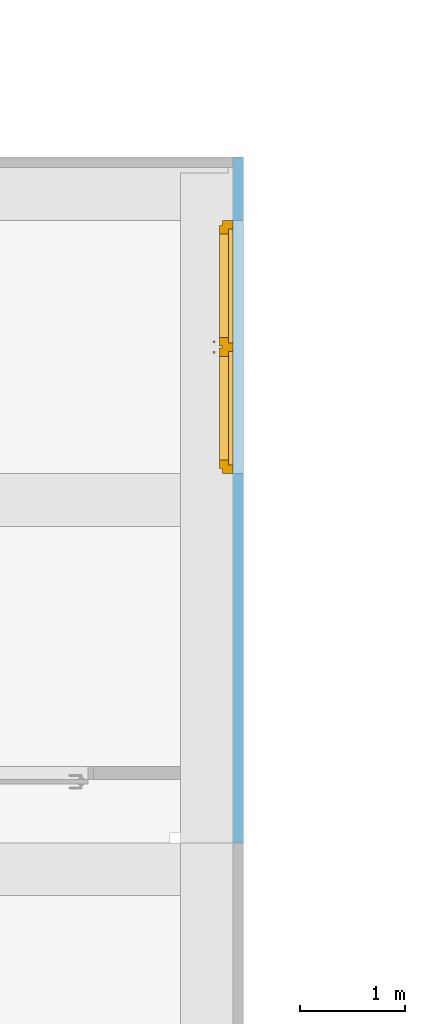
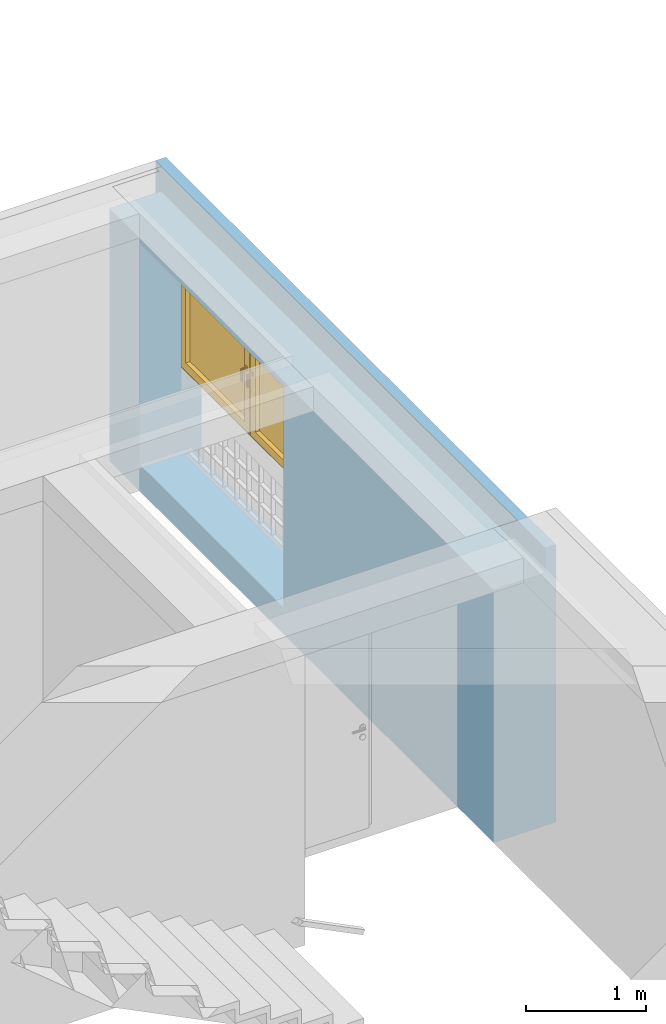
# One storey, part 15 of 27: 1 window, 2 openings, plus 1 element that does not belong to this part.
"""IFC4 building model written with IfcOpenShell, lengths in metres."""

from ifc_helpers import new_model, entity, si_unit, converted_unit, derived_unit, frame, origin, origin_with_axes, place, context, subcontext, project, spatial, polyline, outline, extrude, closed_shell, open_shell, faceted_brep, surface_model, source, transform, mapped, material, element, fill, save


model = new_model("IFC4")

# Units and contexts
model_context = context("Model", 3, precision=1e-05, world=origin())
body_context = subcontext(model_context, "Body", "Model", "MODEL_VIEW")
ifc_project = project(units=[si_unit("LENGTHUNIT", "METRE"), si_unit("AREAUNIT", "SQUARE_METRE"), si_unit("VOLUMEUNIT", "CUBIC_METRE"), si_unit("MASSUNIT", "GRAM", prefix="KILO"), converted_unit("PLANEANGLEUNIT", "DEGREE", entity("IfcPlaneAngleMeasure", 0.0174532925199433), si_unit("PLANEANGLEUNIT", "RADIAN"), dimensions=[0, 0, 0, 0, 0, 0, 0]), derived_unit("THERMALTRANSMITTANCEUNIT", [(si_unit("POWERUNIT", "WATT"), 1), (si_unit("THERMODYNAMICTEMPERATUREUNIT", "KELVIN"), -1), (si_unit("LENGTHUNIT", "METRE"), -2)]), derived_unit("VOLUMETRICFLOWRATEUNIT", [(si_unit("LENGTHUNIT", "METRE"), 3), (converted_unit("TIMEUNIT", "hour", entity("IfcTimeMeasure", 3600.0), si_unit("TIMEUNIT", "SECOND"), dimensions=[0, 0, 1, 0, 0, 0, 0]), -1), (si_unit("LENGTHUNIT", "METRE"), -1)])], contexts=[model_context])

# Site, building, storey
site_placement = place(None, origin())
site = spatial("IfcSite", under=ifc_project, at=site_placement, Name="3. ASŘ", CompositionType="ELEMENT")
building_placement = place(site_placement, origin())
building = spatial("IfcBuilding", under=site, at=building_placement, Name="Pavilon C", CompositionType="ELEMENT")
storey_placement = place(building_placement, frame((0.0, 0.0, 10.5)))
storey = spatial("IfcBuildingStorey", under=building, at=storey_placement, Name="Půdorys 4.NP", CompositionType="ELEMENT", Elevation=10.5)

# Wall, openings, window
ifc_material = material(Name="EPS")
wall_placement = place(storey_placement, frame((-1.52499999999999, 4.45, -0.42)))
wall = element("IfcWall", 1, at=wall_placement, inside=storey, material=ifc_material, Name="ZDIVO Z CDm", context=body_context, shape_type="Brep", body=[
    faceted_brep([(0.6, 5.90000000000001, 0.27), (0.6, 5.90000000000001, 0.12), (0.5, 5.90000000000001, 0.12), (0.5, 5.90000000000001, 0.27), (0.5, 3.50000000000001, 0.12), (0.6, 3.50000000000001, 0.12), (0.6, 6.5, 0.0), (0.6, 9.09494701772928e-16, 0.0), (0.6, 9.09494701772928e-16, 2.82), (0.6, 6.5, 2.82), (0.6, 3.50000000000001, 0.27), (0.5, 3.50000000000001, 0.27), (0.5, 6.4, 0.0), (0.0, 6.4, 0.0), (0.0, 9.09494701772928e-16, 0.0), (0.5, 6.5, 0.0), (0.5, 6.5, 2.82), (0.5, 9.09494701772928e-16, 2.82), (0.0, 9.09494701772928e-16, 2.57), (0.5, 9.09494701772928e-16, 2.57), (0.5, 6.4, 2.57), (0.0, 6.4, 2.57)], [[[0, 1, 2, 3]], [[4, 2, 1, 5]], [[6, 7, 8, 9], [1, 0, 10, 5]], [[10, 0, 3, 11]], [[11, 4, 5, 10]], [[12, 13, 14, 7, 6, 15]], [[15, 6, 9, 16]], [[8, 17, 16, 9]], [[7, 14, 18, 19, 17, 8]], [[12, 15, 16, 17, 19, 20]], [[14, 13, 21, 18]], [[19, 18, 21, 20]], [[13, 12, 20, 21]], [[3, 2, 4, 11]]], orient=[[False], [False], [False, False], [False], [False], [False], [False], [False], [False], [False], [False], [False], [False], [False]]),
])
opening_1_placement = place(wall_placement, frame((0.6, 3.50000000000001, 0.27), z_axis=(-1.0, 0.0, 0.0), x_axis=(0.0, 0.0, 1.0)))
element("IfcOpeningElement", 2, at=opening_1_placement, cuts=wall, Name="Okenní otvor", ObjectType="Opening", context=body_context, shape_type="SweptSolid", body=[
    extrude(outline(polyline([(0.0, 2.4), (0.85, 2.4), (0.85, 0.0), (0.0, 0.0), (0.0, 2.4)])), origin_with_axes(), (0.0, 0.0, 1.0), 0.1),
    extrude(outline(polyline([(0.0, 2.39999999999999), (0.85, 2.39999999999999), (0.85, 0.0), (0.0, 0.0), (0.0, 2.39999999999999)])), frame((0.0, 0.0, 0.1), z_axis=(0.0, 0.0, 1.0), x_axis=(1.0, 0.0, 0.0)), (0.0, 0.0, 1.0), 0.5),
])
opening_2_placement = place(wall_placement, frame((0.6, 3.50000000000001, 1.12), z_axis=(-1.0, 0.0, 0.0), x_axis=(0.0, 0.0, 1.0)))
opening_2 = element("IfcOpeningElement", 3, at=opening_2_placement, cuts=wall, Name="Okenní otvor", ObjectType="Opening", context=body_context, shape_type="SweptSolid", body=[
    extrude(outline(polyline([(0.0, 2.4), (1.4, 2.4), (1.4, 0.0), (0.0, 0.0), (0.0, 2.4)])), origin_with_axes(), (0.0, 0.0, 1.0), 0.1),
    extrude(outline(polyline([(0.0, 2.39999999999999), (1.4, 2.39999999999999), (1.4, 0.0), (0.0, 0.0), (0.0, 2.39999999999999)])), frame((0.0, 0.0, 0.1), z_axis=(0.0, 0.0, 1.0), x_axis=(1.0, 0.0, 0.0)), (0.0, 0.0, 1.0), 0.5),
])
shared_shape = source(origin_with_axes(), body_context, "Body", "SurfaceModel", [
    surface_model("IfcShellBasedSurfaceModel", [(0.0, 0.19, 1.4), (0.0, 0.19, -6.12323399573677e-18), (0.08, 0.19, -6.12323399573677e-18), (0.08, 0.19, 1.4), (0.0, 0.0899999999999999, 6.12323399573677e-18), (0.0, 0.0900000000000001, 1.4), (0.08, 0.0900000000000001, 1.4), (0.08, 0.0899999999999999, 6.12323399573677e-18)], [closed_shell([[[0, 1, 2, 3]], [[4, 5, 6, 7]], [[1, 0, 5, 4]], [[2, 1, 4, 7]], [[3, 2, 7, 6]], [[0, 3, 6, 5]]], orient=[[False], [False], [False], [False], [False], [False]])]),
    surface_model("IfcShellBasedSurfaceModel", [(2.32, 0.19, 1.4), (2.32, 0.19, -6.12323399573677e-18), (2.4, 0.19, -6.12323399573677e-18), (2.4, 0.19, 1.4), (2.32, 0.0899999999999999, 6.12323399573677e-18), (2.32, 0.0900000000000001, 1.4), (2.4, 0.0900000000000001, 1.4), (2.4, 0.0899999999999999, 6.12323399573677e-18)], [closed_shell([[[0, 1, 2, 3]], [[4, 5, 6, 7]], [[1, 0, 5, 4]], [[2, 1, 4, 7]], [[3, 2, 7, 6]], [[0, 3, 6, 5]]], orient=[[False], [False], [False], [False], [False], [False]])]),
    surface_model("IfcShellBasedSurfaceModel", [(0.08, 0.19, 0.08), (0.08, 0.19, -6.12323399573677e-18), (2.32, 0.19, -6.12323399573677e-18), (2.32, 0.19, 0.08), (0.08, 0.0899999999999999, 6.12323399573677e-18), (0.08, 0.0899999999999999, 0.08), (2.32, 0.0899999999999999, 0.08), (2.32, 0.0899999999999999, 6.12323399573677e-18)], [closed_shell([[[0, 1, 2, 3]], [[4, 5, 6, 7]], [[1, 0, 5, 4]], [[2, 1, 4, 7]], [[3, 2, 7, 6]], [[0, 3, 6, 5]]], orient=[[False], [False], [False], [False], [False], [False]])]),
    surface_model("IfcShellBasedSurfaceModel", [(0.08, 0.19, 1.4), (0.08, 0.19, 1.32), (2.32, 0.19, 1.32), (2.32, 0.19, 1.4), (0.08, 0.0900000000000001, 1.32), (0.08, 0.0900000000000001, 1.4), (2.32, 0.0900000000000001, 1.4), (2.32, 0.0900000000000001, 1.32)], [closed_shell([[[0, 1, 2, 3]], [[4, 5, 6, 7]], [[1, 0, 5, 4]], [[2, 1, 4, 7]], [[3, 2, 7, 6]], [[0, 3, 6, 5]]], orient=[[False], [False], [False], [False], [False], [False]])]),
    surface_model("IfcShellBasedSurfaceModel", [(1.16, 0.19, 1.32), (1.16, 0.19, 0.08), (1.24, 0.19, 0.08), (1.24, 0.19, 1.32), (1.16, 0.0899999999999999, 0.08), (1.16, 0.0900000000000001, 1.32), (1.24, 0.0900000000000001, 1.32), (1.24, 0.0899999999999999, 0.08)], [closed_shell([[[0, 1, 2, 3]], [[4, 5, 6, 7]], [[1, 0, 5, 4]], [[2, 1, 4, 7]], [[3, 2, 7, 6]], [[0, 3, 6, 5]]], orient=[[False], [False], [False], [False], [False], [False]])]),
    surface_model("IfcShellBasedSurfaceModel", [(0.05, 0.145, 1.35), (0.05, 0.145, 0.05), (0.13, 0.145, 0.05), (0.13, 0.145, 1.35), (0.05, 0.0599999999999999, 0.05), (0.05, 0.0600000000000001, 1.35), (0.13, 0.0600000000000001, 1.35), (0.13, 0.0599999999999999, 0.05)], [closed_shell([[[0, 1, 2, 3]], [[4, 5, 6, 7]], [[1, 0, 5, 4]], [[2, 1, 4, 7]], [[3, 2, 7, 6]], [[0, 3, 6, 5]]], orient=[[False], [False], [False], [False], [False], [False]])]),
    surface_model("IfcShellBasedSurfaceModel", [(1.11, 0.145, 1.35), (1.11, 0.145, 0.05), (1.19, 0.145, 0.05), (1.19, 0.145, 1.35), (1.11, 0.0599999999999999, 0.05), (1.11, 0.0600000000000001, 1.35), (1.19, 0.0600000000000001, 1.35), (1.19, 0.0599999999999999, 0.05)], [closed_shell([[[0, 1, 2, 3]], [[4, 5, 6, 7]], [[1, 0, 5, 4]], [[2, 1, 4, 7]], [[3, 2, 7, 6]], [[0, 3, 6, 5]]], orient=[[False], [False], [False], [False], [False], [False]])]),
    surface_model("IfcShellBasedSurfaceModel", [(0.13, 0.145, 0.13), (0.13, 0.145, 0.05), (1.11, 0.145, 0.05), (1.11, 0.145, 0.13), (0.13, 0.0599999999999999, 0.05), (0.13, 0.0599999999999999, 0.13), (1.11, 0.0599999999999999, 0.13), (1.11, 0.0599999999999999, 0.05)], [closed_shell([[[0, 1, 2, 3]], [[4, 5, 6, 7]], [[1, 0, 5, 4]], [[2, 1, 4, 7]], [[3, 2, 7, 6]], [[0, 3, 6, 5]]], orient=[[False], [False], [False], [False], [False], [False]])]),
    surface_model("IfcShellBasedSurfaceModel", [(0.13, 0.145, 1.35), (0.13, 0.145, 1.27), (1.11, 0.145, 1.27), (1.11, 0.145, 1.35), (0.13, 0.0600000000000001, 1.27), (0.13, 0.0600000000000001, 1.35), (1.11, 0.0600000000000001, 1.35), (1.11, 0.0600000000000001, 1.27)], [closed_shell([[[0, 1, 2, 3]], [[4, 5, 6, 7]], [[1, 0, 5, 4]], [[2, 1, 4, 7]], [[3, 2, 7, 6]], [[0, 3, 6, 5]]], orient=[[False], [False], [False], [False], [False], [False]])]),
    surface_model("IfcShellBasedSurfaceModel", [(1.1375, 0.06, 0.72), (1.1375, 0.06, 0.68), (1.1625, 0.06, 0.68), (1.1625, 0.06, 0.72), (1.1375, 0.05, 0.68), (1.1375, 0.05, 0.72), (1.1625, 0.05, 0.72), (1.1625, 0.05, 0.68)], [closed_shell([[[0, 1, 2, 3]], [[4, 5, 6, 7]], [[1, 0, 5, 4]], [[2, 1, 4, 7]], [[3, 2, 7, 6]], [[0, 3, 6, 5]]], orient=[[False], [False], [False], [False], [False], [False]])]),
    surface_model("IfcShellBasedSurfaceModel", [(1.16, 0.05, 0.7), (1.15866025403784, 0.05, 0.705), (1.155, 0.05, 0.708660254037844), (1.15, 0.05, 0.71), (1.145, 0.05, 0.708660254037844), (1.14133974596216, 0.05, 0.705), (1.14, 0.05, 0.7), (1.14133974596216, 0.05, 0.695), (1.145, 0.05, 0.691339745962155), (1.15, 0.05, 0.69), (1.155, 0.05, 0.691339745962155), (1.15866025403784, 0.05, 0.695), (1.16, 0.01, 0.7), (1.15866025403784, 0.00500000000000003, 0.705), (1.155, 0.00133974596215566, 0.708660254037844), (1.15, 2.8421709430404e-17, 0.71), (1.145, 0.00133974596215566, 0.708660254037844), (1.14133974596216, 0.00500000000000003, 0.705), (1.14, 0.01, 0.7), (1.14133974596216, 0.015, 0.695), (1.145, 0.0186602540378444, 0.691339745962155), (1.15, 0.02, 0.69), (1.155, 0.0186602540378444, 0.691339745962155), (1.15866025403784, 0.015, 0.695), (1.16, 0.01, 0.585), (1.15866025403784, 0.005, 0.585), (1.155, 0.00133974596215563, 0.585), (1.15, 0.0, 0.585), (1.145, 0.00133974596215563, 0.585), (1.14133974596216, 0.005, 0.585), (1.14, 0.01, 0.585), (1.14133974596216, 0.015, 0.585), (1.145, 0.0186602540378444, 0.585), (1.15, 0.02, 0.585), (1.155, 0.0186602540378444, 0.585), (1.15866025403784, 0.015, 0.585)], [open_shell([[[0, 1, 2, 3, 4, 5, 6, 7, 8, 9, 10, 11]], [[0, 12, 13, 1]], [[1, 13, 14, 2]], [[2, 14, 15, 3]], [[3, 15, 16, 4]], [[4, 16, 17, 5]], [[5, 17, 18, 6]], [[6, 18, 19, 7]], [[7, 19, 20, 8]], [[8, 20, 21, 9]], [[9, 21, 22, 10]], [[10, 22, 23, 11]], [[11, 23, 12, 0]], [[12, 24, 25, 13]], [[13, 25, 26, 14]], [[14, 26, 27, 15]], [[15, 27, 28, 16]], [[16, 28, 29, 17]], [[17, 29, 30, 18]], [[18, 30, 31, 19]], [[19, 31, 32, 20]], [[20, 32, 33, 21]], [[21, 33, 34, 22]], [[22, 34, 35, 23]], [[23, 35, 24, 12]]], orient=[[False], [False], [False], [False], [False], [False], [False], [False], [False], [False], [False], [False], [False], [False], [False], [False], [False], [False], [False], [False], [False], [False], [False], [False], [False]])]),
    surface_model("IfcShellBasedSurfaceModel", [(1.21, 0.145, 1.35), (1.21, 0.145, 0.05), (1.29, 0.145, 0.05), (1.29, 0.145, 1.35), (1.21, 0.0599999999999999, 0.05), (1.21, 0.0600000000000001, 1.35), (1.29, 0.0600000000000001, 1.35), (1.29, 0.0599999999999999, 0.05)], [closed_shell([[[0, 1, 2, 3]], [[4, 5, 6, 7]], [[1, 0, 5, 4]], [[2, 1, 4, 7]], [[3, 2, 7, 6]], [[0, 3, 6, 5]]], orient=[[False], [False], [False], [False], [False], [False]])]),
    surface_model("IfcShellBasedSurfaceModel", [(2.27, 0.145, 1.35), (2.27, 0.145, 0.05), (2.35, 0.145, 0.05), (2.35, 0.145, 1.35), (2.27, 0.0599999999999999, 0.05), (2.27, 0.0600000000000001, 1.35), (2.35, 0.0600000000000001, 1.35), (2.35, 0.0599999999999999, 0.05)], [closed_shell([[[0, 1, 2, 3]], [[4, 5, 6, 7]], [[1, 0, 5, 4]], [[2, 1, 4, 7]], [[3, 2, 7, 6]], [[0, 3, 6, 5]]], orient=[[False], [False], [False], [False], [False], [False]])]),
    surface_model("IfcShellBasedSurfaceModel", [(1.29, 0.145, 0.13), (1.29, 0.145, 0.05), (2.27, 0.145, 0.05), (2.27, 0.145, 0.13), (1.29, 0.0599999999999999, 0.05), (1.29, 0.0599999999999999, 0.13), (2.27, 0.0599999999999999, 0.13), (2.27, 0.0599999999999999, 0.05)], [closed_shell([[[0, 1, 2, 3]], [[4, 5, 6, 7]], [[1, 0, 5, 4]], [[2, 1, 4, 7]], [[3, 2, 7, 6]], [[0, 3, 6, 5]]], orient=[[False], [False], [False], [False], [False], [False]])]),
    surface_model("IfcShellBasedSurfaceModel", [(1.29, 0.145, 1.35), (1.29, 0.145, 1.27), (2.27, 0.145, 1.27), (2.27, 0.145, 1.35), (1.29, 0.0600000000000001, 1.27), (1.29, 0.0600000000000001, 1.35), (2.27, 0.0600000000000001, 1.35), (2.27, 0.0600000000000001, 1.27)], [closed_shell([[[0, 1, 2, 3]], [[4, 5, 6, 7]], [[1, 0, 5, 4]], [[2, 1, 4, 7]], [[3, 2, 7, 6]], [[0, 3, 6, 5]]], orient=[[False], [False], [False], [False], [False], [False]])]),
    surface_model("IfcShellBasedSurfaceModel", [(1.2375, 0.06, 0.72), (1.2375, 0.06, 0.68), (1.2625, 0.06, 0.68), (1.2625, 0.06, 0.72), (1.2375, 0.05, 0.68), (1.2375, 0.05, 0.72), (1.2625, 0.05, 0.72), (1.2625, 0.05, 0.68)], [closed_shell([[[0, 1, 2, 3]], [[4, 5, 6, 7]], [[1, 0, 5, 4]], [[2, 1, 4, 7]], [[3, 2, 7, 6]], [[0, 3, 6, 5]]], orient=[[False], [False], [False], [False], [False], [False]])]),
    surface_model("IfcShellBasedSurfaceModel", [(1.26, 0.05, 0.7), (1.25866025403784, 0.05, 0.705), (1.255, 0.05, 0.708660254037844), (1.25, 0.05, 0.71), (1.245, 0.05, 0.708660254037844), (1.24133974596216, 0.05, 0.705), (1.24, 0.05, 0.7), (1.24133974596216, 0.05, 0.695), (1.245, 0.05, 0.691339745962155), (1.25, 0.05, 0.69), (1.255, 0.05, 0.691339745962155), (1.25866025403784, 0.05, 0.695), (1.26, 0.01, 0.7), (1.25866025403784, 0.00500000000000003, 0.705), (1.255, 0.00133974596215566, 0.708660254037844), (1.25, 2.8421709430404e-17, 0.71), (1.245, 0.00133974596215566, 0.708660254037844), (1.24133974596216, 0.00500000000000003, 0.705), (1.24, 0.01, 0.7), (1.24133974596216, 0.015, 0.695), (1.245, 0.0186602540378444, 0.691339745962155), (1.25, 0.02, 0.69), (1.255, 0.0186602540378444, 0.691339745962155), (1.25866025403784, 0.015, 0.695), (1.26, 0.01, 0.585), (1.25866025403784, 0.005, 0.585), (1.255, 0.00133974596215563, 0.585), (1.25, 0.0, 0.585), (1.245, 0.00133974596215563, 0.585), (1.24133974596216, 0.005, 0.585), (1.24, 0.01, 0.585), (1.24133974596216, 0.015, 0.585), (1.245, 0.0186602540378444, 0.585), (1.25, 0.02, 0.585), (1.255, 0.0186602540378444, 0.585), (1.25866025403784, 0.015, 0.585)], [open_shell([[[0, 1, 2, 3, 4, 5, 6, 7, 8, 9, 10, 11]], [[0, 12, 13, 1]], [[1, 13, 14, 2]], [[2, 14, 15, 3]], [[3, 15, 16, 4]], [[4, 16, 17, 5]], [[5, 17, 18, 6]], [[6, 18, 19, 7]], [[7, 19, 20, 8]], [[8, 20, 21, 9]], [[9, 21, 22, 10]], [[10, 22, 23, 11]], [[11, 23, 12, 0]], [[12, 24, 25, 13]], [[13, 25, 26, 14]], [[14, 26, 27, 15]], [[15, 27, 28, 16]], [[16, 28, 29, 17]], [[17, 29, 30, 18]], [[18, 30, 31, 19]], [[19, 31, 32, 20]], [[20, 32, 33, 21]], [[21, 33, 34, 22]], [[22, 34, 35, 23]], [[23, 35, 24, 12]]], orient=[[False], [False], [False], [False], [False], [False], [False], [False], [False], [False], [False], [False], [False], [False], [False], [False], [False], [False], [False], [False], [False], [False], [False], [False], [False]])]),
    surface_model("IfcShellBasedSurfaceModel", [(0.13, 0.1025, 0.13), (1.11, 0.1025, 0.13), (1.11, 0.1025, 1.27), (0.13, 0.1025, 1.27)], [open_shell([[[0, 1, 2, 3]]], orient=[[False]])]),
    surface_model("IfcShellBasedSurfaceModel", [(1.29, 0.1025, 0.13), (2.27, 0.1025, 0.13), (2.27, 0.1025, 1.27), (1.29, 0.1025, 1.27)], [open_shell([[[0, 1, 2, 3]]], orient=[[False]])]),
])
window_placement = place(opening_2_placement, frame((0.0, 2.4, 0.29), z_axis=(1.0, 0.0, 0.0), x_axis=(0.0, -0.999999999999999, 2.4492935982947e-16)))
window = element("IfcWindow", 4, at=window_placement, inside=storey, Name="O01", OverallHeight=1.4, OverallWidth=2.4, PartitioningType="USERDEFINED", PredefinedType="WINDOW", context=body_context, shape_type="MappedRepresentation", body=[
    mapped(shared_shape, transform((0.0, 0.0, 0.0), x_axis=(1.0, 0.0, 0.0), y_axis=(0.0, 1.0, 0.0), z_axis=(0.0, 0.0, 1.0), scale=0.999999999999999)),
])
fill(opening_2, window)

save(model, "model.ifc")
